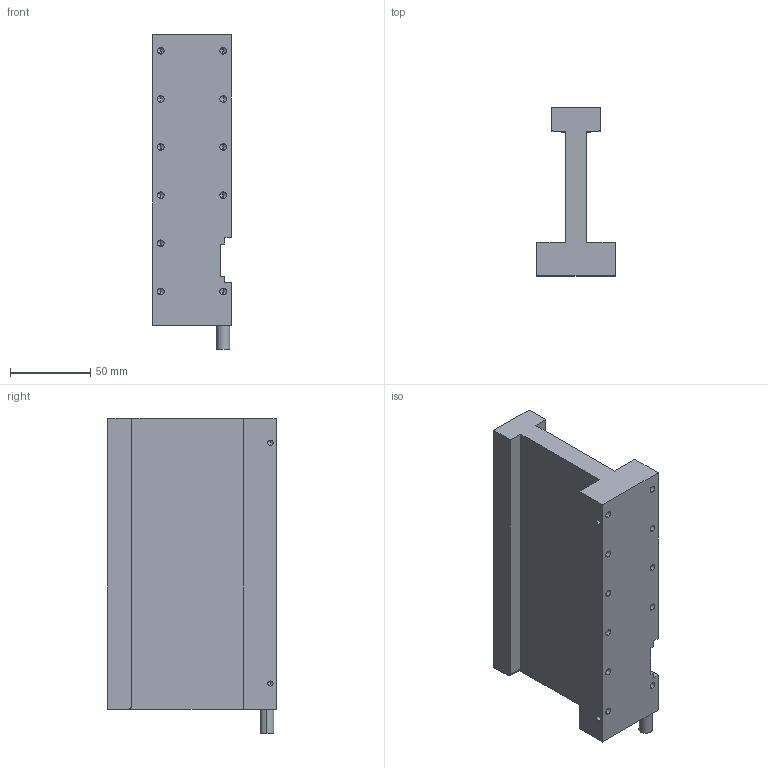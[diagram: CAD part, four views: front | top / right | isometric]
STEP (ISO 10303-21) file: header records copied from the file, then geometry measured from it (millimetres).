
FILE_DESCRIPTION (( 'STEP AP214' ), '1' );
FILE_NAME ('JKA53.STEP', '2025-09-05T08:49:00', ( '' ), ( '' ), 'SwSTEP 2.0', 'SolidWorks 2016', '' );
FILE_SCHEMA (( 'AUTOMOTIVE_DESIGN' ));
Length unit declared in the file: millimetre
Products named in the file (1): JKA53
Bounding box: 49 x 104.8 x 196 mm (x, y, z)
Volume: 424898.8 mm3; surface area: 69680.6 mm2
Topology: 1 solids, 1 shells, 107 faces, 279 edges, 157 vertices
Faces by surface type: cylinder 44, cone 34, plane 29
Entity records: 3453 total; most frequent: CARTESIAN_POINT 556, DIRECTION 539, ORIENTED_EDGE 490, EDGE_CURVE 245, AXIS2_PLACEMENT_3D 192, VERTEX_POINT 157, VECTOR 155, LINE 155
